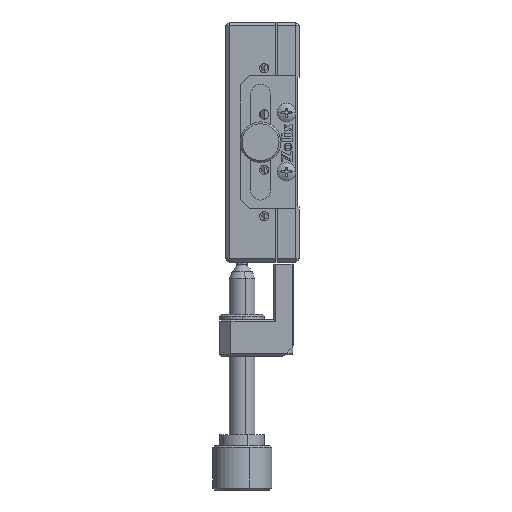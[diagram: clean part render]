
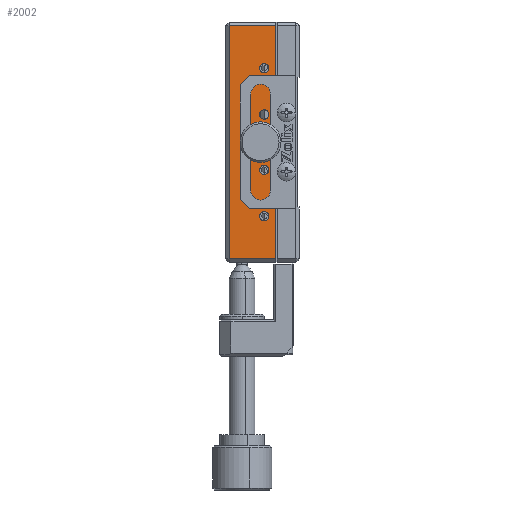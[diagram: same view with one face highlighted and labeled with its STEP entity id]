
A CAD part, left-side view. The second image highlights one B-rep face of the part: STEP entity #2002.
In plain terms, the highlighted planar face has unit normal (-1, 0, 0).
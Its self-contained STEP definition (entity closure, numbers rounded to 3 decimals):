
#768 = VECTOR ( 'NONE', #16129, 1000. ) ;
#988 = DIRECTION ( 'NONE',  ( 0., 0., 1. ) ) ;
#1073 = AXIS2_PLACEMENT_3D ( 'NONE', #17978, #1102, #12570 ) ;
#1086 = CARTESIAN_POINT ( 'NONE',  ( -30.469, 7.545, 89.799 ) ) ;
#1102 = DIRECTION ( 'NONE',  ( -1., 0., 0. ) ) ;
#1231 = DIRECTION ( 'NONE',  ( -1., 0., 0. ) ) ;
#1283 = DIRECTION ( 'NONE',  ( 0., 0., 1. ) ) ;
#1448 = CIRCLE ( 'NONE', #8665, 1.25 ) ;
#1452 = DIRECTION ( 'NONE',  ( -1., 0., 0. ) ) ;
#1479 = CARTESIAN_POINT ( 'NONE',  ( -30.469, 7.545, 104.799 ) ) ;
#1516 = EDGE_CURVE ( 'NONE', #7004, #11544, #19478, .T. ) ;
#1589 = DIRECTION ( 'NONE',  ( -1., 0., 0. ) ) ;
#1769 = CARTESIAN_POINT ( 'NONE',  ( -30.469, 8.545, 93.949 ) ) ;
#2002 = ADVANCED_FACE ( 'NONE', ( #23656, #21817, #14386, #13513, #8425, #7839 ), #4490, .T. ) ;
#2378 = VERTEX_POINT ( 'NONE', #11178 ) ;
#2507 = EDGE_CURVE ( 'NONE', #9987, #9937, #11987, .T. ) ;
#2610 = CARTESIAN_POINT ( 'NONE',  ( -30.469, 7.545, 88.549 ) ) ;
#2958 = CIRCLE ( 'NONE', #22549, 1.25 ) ;
#2981 = CARTESIAN_POINT ( 'NONE',  ( -30.469, 7.545, 117.299 ) ) ;
#3039 = ORIENTED_EDGE ( 'NONE', *, *, #1516, .F. ) ;
#3061 = CARTESIAN_POINT ( 'NONE',  ( -30.469, 4.545, 63.549 ) ) ;
#3093 = VERTEX_POINT ( 'NONE', #1479 ) ;
#3884 = AXIS2_PLACEMENT_3D ( 'NONE', #20563, #1452, #20392 ) ;
#3960 = DIRECTION ( 'NONE',  ( 0., 0., 1. ) ) ;
#4011 = ORIENTED_EDGE ( 'NONE', *, *, #8514, .F. ) ;
#4063 = CARTESIAN_POINT ( 'NONE',  ( -30.469, 4.545, 127.549 ) ) ;
#4085 = CIRCLE ( 'NONE', #17652, 2.1 ) ;
#4193 = VECTOR ( 'NONE', #21101, 1000. ) ;
#4212 = VERTEX_POINT ( 'NONE', #14449 ) ;
#4233 = DIRECTION ( 'NONE',  ( 0., 0., 1. ) ) ;
#4260 = CARTESIAN_POINT ( 'NONE',  ( -30.469, 17.045, 127.549 ) ) ;
#4490 = PLANE ( 'NONE',  #8816 ) ;
#4832 = ORIENTED_EDGE ( 'NONE', *, *, #5628, .F. ) ;
#5316 = AXIS2_PLACEMENT_3D ( 'NONE', #7396, #1589, #12886 ) ;
#5628 = EDGE_CURVE ( 'NONE', #19731, #11327, #2958, .T. ) ;
#6476 = CARTESIAN_POINT ( 'NONE',  ( -30.469, 7.545, 87.299 ) ) ;
#6628 = EDGE_CURVE ( 'NONE', #11212, #4212, #7671, .T. ) ;
#6824 = DIRECTION ( 'NONE',  ( -1., 0., 0. ) ) ;
#6907 = CARTESIAN_POINT ( 'NONE',  ( -30.469, 7.545, 116.049 ) ) ;
#7004 = VERTEX_POINT ( 'NONE', #12177 ) ;
#7396 = CARTESIAN_POINT ( 'NONE',  ( -30.469, 7.545, 116.049 ) ) ;
#7501 = CIRCLE ( 'NONE', #3884, 1.25 ) ;
#7667 = EDGE_CURVE ( 'NONE', #19876, #20902, #11177, .T. ) ;
#7671 = LINE ( 'NONE', #17005, #9465 ) ;
#7828 = DIRECTION ( 'NONE',  ( 0., 0., -1. ) ) ;
#7839 = FACE_OUTER_BOUND ( 'NONE', #7934, .T. ) ;
#7856 = DIRECTION ( 'NONE',  ( -1., 0., 0. ) ) ;
#7934 = EDGE_LOOP ( 'NONE', ( #16199, #18030, #16870, #17993 ) ) ;
#8201 = EDGE_LOOP ( 'NONE', ( #3039, #17693 ) ) ;
#8425 = FACE_BOUND ( 'NONE', #8201, .T. ) ;
#8514 = EDGE_CURVE ( 'NONE', #3093, #16529, #22441, .T. ) ;
#8665 = AXIS2_PLACEMENT_3D ( 'NONE', #18415, #9004, #1283 ) ;
#8816 = AXIS2_PLACEMENT_3D ( 'NONE', #10701, #18282, #988 ) ;
#9004 = DIRECTION ( 'NONE',  ( -1., 0., 0. ) ) ;
#9088 = AXIS2_PLACEMENT_3D ( 'NONE', #6907, #6824, #18564 ) ;
#9465 = VECTOR ( 'NONE', #7828, 1000. ) ;
#9522 = EDGE_CURVE ( 'NONE', #11327, #19731, #7501, .T. ) ;
#9783 = CARTESIAN_POINT ( 'NONE',  ( -30.469, 4.545, 64.549 ) ) ;
#9802 = DIRECTION ( 'NONE',  ( -1., 0., 0. ) ) ;
#9937 = VERTEX_POINT ( 'NONE', #14383 ) ;
#9987 = VERTEX_POINT ( 'NONE', #2981 ) ;
#10275 = EDGE_CURVE ( 'NONE', #20902, #11212, #11344, .T. ) ;
#10701 = CARTESIAN_POINT ( 'NONE',  ( -30.469, 4.545, 63.549 ) ) ;
#11177 = LINE ( 'NONE', #3061, #768 ) ;
#11178 = CARTESIAN_POINT ( 'NONE',  ( -30.469, 7.545, 74.799 ) ) ;
#11212 = VERTEX_POINT ( 'NONE', #4260 ) ;
#11327 = VERTEX_POINT ( 'NONE', #1086 ) ;
#11344 = LINE ( 'NONE', #4063, #4193 ) ;
#11430 = ORIENTED_EDGE ( 'NONE', *, *, #9522, .F. ) ;
#11544 = VERTEX_POINT ( 'NONE', #1769 ) ;
#11757 = EDGE_CURVE ( 'NONE', #2378, #18697, #1448, .T. ) ;
#11764 = EDGE_LOOP ( 'NONE', ( #11430, #4832 ) ) ;
#11987 = CIRCLE ( 'NONE', #9088, 1.25 ) ;
#12177 = CARTESIAN_POINT ( 'NONE',  ( -30.469, 8.545, 98.149 ) ) ;
#12181 = AXIS2_PLACEMENT_3D ( 'NONE', #15833, #16133, #17962 ) ;
#12516 = EDGE_LOOP ( 'NONE', ( #13618, #12745 ) ) ;
#12570 = DIRECTION ( 'NONE',  ( 0., 0., 1. ) ) ;
#12648 = EDGE_CURVE ( 'NONE', #18697, #2378, #24064, .T. ) ;
#12707 = CARTESIAN_POINT ( 'NONE',  ( -30.469, 8.545, 96.049 ) ) ;
#12745 = ORIENTED_EDGE ( 'NONE', *, *, #21713, .F. ) ;
#12886 = DIRECTION ( 'NONE',  ( 0., 0., 1. ) ) ;
#13513 = FACE_BOUND ( 'NONE', #16466, .T. ) ;
#13618 = ORIENTED_EDGE ( 'NONE', *, *, #2507, .F. ) ;
#13895 = ORIENTED_EDGE ( 'NONE', *, *, #11757, .F. ) ;
#14383 = CARTESIAN_POINT ( 'NONE',  ( -30.469, 7.545, 114.799 ) ) ;
#14386 = FACE_BOUND ( 'NONE', #12516, .T. ) ;
#14449 = CARTESIAN_POINT ( 'NONE',  ( -30.469, 17.045, 64.549 ) ) ;
#14543 = DIRECTION ( 'NONE',  ( 0., 0., 1. ) ) ;
#14771 = LINE ( 'NONE', #9783, #24343 ) ;
#15833 = CARTESIAN_POINT ( 'NONE',  ( -30.469, 8.545, 96.049 ) ) ;
#15901 = ORIENTED_EDGE ( 'NONE', *, *, #23397, .F. ) ;
#16021 = ORIENTED_EDGE ( 'NONE', *, *, #12648, .F. ) ;
#16129 = DIRECTION ( 'NONE',  ( 0., 0., 1. ) ) ;
#16133 = DIRECTION ( 'NONE',  ( -1., 0., 0. ) ) ;
#16199 = ORIENTED_EDGE ( 'NONE', *, *, #7667, .T. ) ;
#16466 = EDGE_LOOP ( 'NONE', ( #4011, #15901 ) ) ;
#16529 = VERTEX_POINT ( 'NONE', #22843 ) ;
#16870 = ORIENTED_EDGE ( 'NONE', *, *, #6628, .T. ) ;
#17005 = CARTESIAN_POINT ( 'NONE',  ( -30.469, 17.045, 63.549 ) ) ;
#17478 = AXIS2_PLACEMENT_3D ( 'NONE', #17545, #9802, #4233 ) ;
#17545 = CARTESIAN_POINT ( 'NONE',  ( -30.469, 7.545, 76.049 ) ) ;
#17652 = AXIS2_PLACEMENT_3D ( 'NONE', #12707, #1231, #14543 ) ;
#17693 = ORIENTED_EDGE ( 'NONE', *, *, #23171, .F. ) ;
#17962 = DIRECTION ( 'NONE',  ( 0., 0., 1. ) ) ;
#17978 = CARTESIAN_POINT ( 'NONE',  ( -30.469, 7.545, 103.549 ) ) ;
#17993 = ORIENTED_EDGE ( 'NONE', *, *, #23482, .T. ) ;
#18030 = ORIENTED_EDGE ( 'NONE', *, *, #10275, .T. ) ;
#18282 = DIRECTION ( 'NONE',  ( -1., 0., 0. ) ) ;
#18415 = CARTESIAN_POINT ( 'NONE',  ( -30.469, 7.545, 76.049 ) ) ;
#18564 = DIRECTION ( 'NONE',  ( 0., 0., 1. ) ) ;
#18697 = VERTEX_POINT ( 'NONE', #20239 ) ;
#19187 = CARTESIAN_POINT ( 'NONE',  ( -30.469, 7.545, 103.549 ) ) ;
#19478 = CIRCLE ( 'NONE', #12181, 2.1 ) ;
#19731 = VERTEX_POINT ( 'NONE', #6476 ) ;
#19876 = VERTEX_POINT ( 'NONE', #22004 ) ;
#19916 = CIRCLE ( 'NONE', #5316, 1.25 ) ;
#19966 = DIRECTION ( 'NONE',  ( 0., 0., 1. ) ) ;
#20239 = CARTESIAN_POINT ( 'NONE',  ( -30.469, 7.545, 77.299 ) ) ;
#20381 = EDGE_LOOP ( 'NONE', ( #16021, #13895 ) ) ;
#20392 = DIRECTION ( 'NONE',  ( 0., 0., 1. ) ) ;
#20563 = CARTESIAN_POINT ( 'NONE',  ( -30.469, 7.545, 88.549 ) ) ;
#20667 = AXIS2_PLACEMENT_3D ( 'NONE', #19187, #7856, #3960 ) ;
#20902 = VERTEX_POINT ( 'NONE', #23775 ) ;
#21101 = DIRECTION ( 'NONE',  ( 0., 1., 0. ) ) ;
#21713 = EDGE_CURVE ( 'NONE', #9937, #9987, #19916, .T. ) ;
#21791 = DIRECTION ( 'NONE',  ( -1., 0., 0. ) ) ;
#21817 = FACE_BOUND ( 'NONE', #20381, .T. ) ;
#22004 = CARTESIAN_POINT ( 'NONE',  ( -30.469, 4.545, 64.549 ) ) ;
#22441 = CIRCLE ( 'NONE', #1073, 1.25 ) ;
#22549 = AXIS2_PLACEMENT_3D ( 'NONE', #2610, #21791, #19966 ) ;
#22843 = CARTESIAN_POINT ( 'NONE',  ( -30.469, 7.545, 102.299 ) ) ;
#22866 = DIRECTION ( 'NONE',  ( 0., -1., 0. ) ) ;
#23126 = CIRCLE ( 'NONE', #20667, 1.25 ) ;
#23171 = EDGE_CURVE ( 'NONE', #11544, #7004, #4085, .T. ) ;
#23397 = EDGE_CURVE ( 'NONE', #16529, #3093, #23126, .T. ) ;
#23482 = EDGE_CURVE ( 'NONE', #4212, #19876, #14771, .T. ) ;
#23656 = FACE_BOUND ( 'NONE', #11764, .T. ) ;
#23775 = CARTESIAN_POINT ( 'NONE',  ( -30.469, 4.545, 127.549 ) ) ;
#24064 = CIRCLE ( 'NONE', #17478, 1.25 ) ;
#24343 = VECTOR ( 'NONE', #22866, 1000. ) ;
